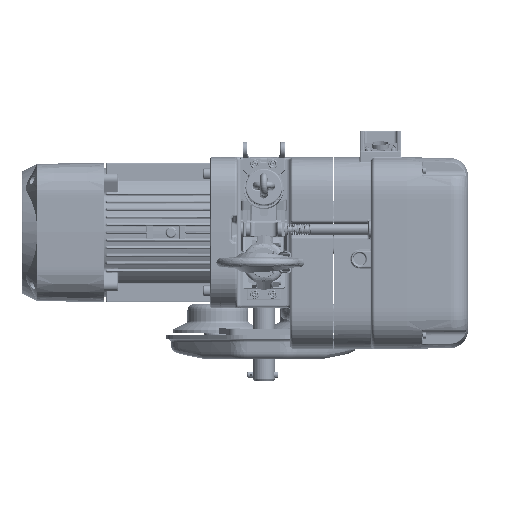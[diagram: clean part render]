
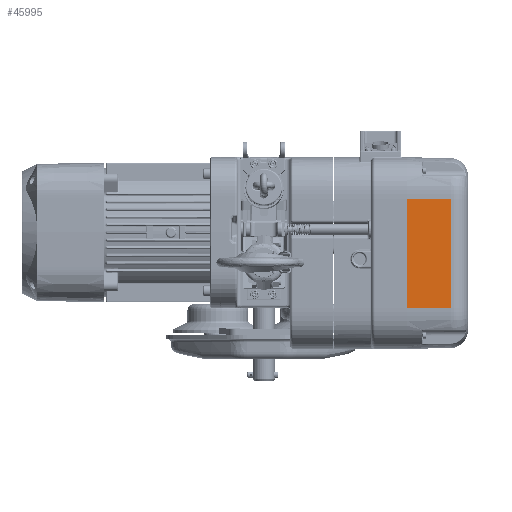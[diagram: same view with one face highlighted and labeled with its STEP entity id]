
A CAD part, front view. The second image highlights one B-rep face of the part: STEP entity #45995.
In plain terms, the highlighted planar face has unit normal (0.018, -1, 0) as drawn and (0, -1, 0.017) by its records, which use the part's own axes.
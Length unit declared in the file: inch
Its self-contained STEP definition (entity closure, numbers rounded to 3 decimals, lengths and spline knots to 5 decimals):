
#3304 = EDGE_CURVE ( 'NONE', #63246, #190968, #137674, .T. ) ;
#10269 = CARTESIAN_POINT ( 'NONE',  ( 3.53868, -5.1674, 2.8152 ) ) ;
#20630 = CARTESIAN_POINT ( 'NONE',  ( -3.53868, -5.21654, 0. ) ) ;
#20998 = LINE ( 'NONE', #171060, #113567 ) ;
#24050 = ORIENTED_EDGE ( 'NONE', *, *, #3304, .T. ) ;
#24161 = CARTESIAN_POINT ( 'NONE',  ( 3.53868, -5.21654, 0. ) ) ;
#29031 = DIRECTION ( 'NONE',  ( 0., -1., 0.017 ) ) ;
#30081 = FACE_OUTER_BOUND ( 'NONE', #84138, .T. ) ;
#30490 = ORIENTED_EDGE ( 'NONE', *, *, #48761, .F. ) ;
#45995 = ADVANCED_FACE ( 'NONE', ( #30081 ), #144412, .T. ) ;
#48761 = EDGE_CURVE ( 'NONE', #140826, #145387, #72051, .T. ) ;
#61709 = CARTESIAN_POINT ( 'NONE',  ( 0., -5.21654, 0. ) ) ;
#62474 = LINE ( 'NONE', #179944, #188763 ) ;
#63246 = VERTEX_POINT ( 'NONE', #131055 ) ;
#68886 = DIRECTION ( 'NONE',  ( -1., 0., 0. ) ) ;
#72051 = LINE ( 'NONE', #24161, #207712 ) ;
#72571 = ORIENTED_EDGE ( 'NONE', *, *, #169754, .T. ) ;
#84138 = EDGE_LOOP ( 'NONE', ( #30490, #72571, #24050, #191158 ) ) ;
#103993 = AXIS2_PLACEMENT_3D ( 'NONE', #61709, #29031, #209669 ) ;
#113567 = VECTOR ( 'NONE', #68886, 39.37008 ) ;
#123454 = DIRECTION ( 'NONE',  ( 0., -0.017, -1. ) ) ;
#127754 = DIRECTION ( 'NONE',  ( -1., 0., 0. ) ) ;
#129580 = CARTESIAN_POINT ( 'NONE',  ( 3.53868, -5.21654, 0. ) ) ;
#131055 = CARTESIAN_POINT ( 'NONE',  ( -3.53868, -5.1674, 2.8152 ) ) ;
#137674 = LINE ( 'NONE', #155010, #153725 ) ;
#140826 = VERTEX_POINT ( 'NONE', #10269 ) ;
#144412 = PLANE ( 'NONE',  #103993 ) ;
#145387 = VERTEX_POINT ( 'NONE', #129580 ) ;
#153725 = VECTOR ( 'NONE', #123454, 39.37008 ) ;
#155010 = CARTESIAN_POINT ( 'NONE',  ( -3.53868, -5.21654, 0. ) ) ;
#169754 = EDGE_CURVE ( 'NONE', #140826, #63246, #62474, .T. ) ;
#171060 = CARTESIAN_POINT ( 'NONE',  ( 0., -5.21654, 0. ) ) ;
#172107 = DIRECTION ( 'NONE',  ( 0., -0.017, -1. ) ) ;
#179944 = CARTESIAN_POINT ( 'NONE',  ( 0., -5.1674, 2.8152 ) ) ;
#188763 = VECTOR ( 'NONE', #127754, 39.37008 ) ;
#190968 = VERTEX_POINT ( 'NONE', #20630 ) ;
#191158 = ORIENTED_EDGE ( 'NONE', *, *, #195076, .F. ) ;
#195076 = EDGE_CURVE ( 'NONE', #145387, #190968, #20998, .T. ) ;
#207712 = VECTOR ( 'NONE', #172107, 39.37008 ) ;
#209669 = DIRECTION ( 'NONE',  ( 0., -0.017, -1. ) ) ;
